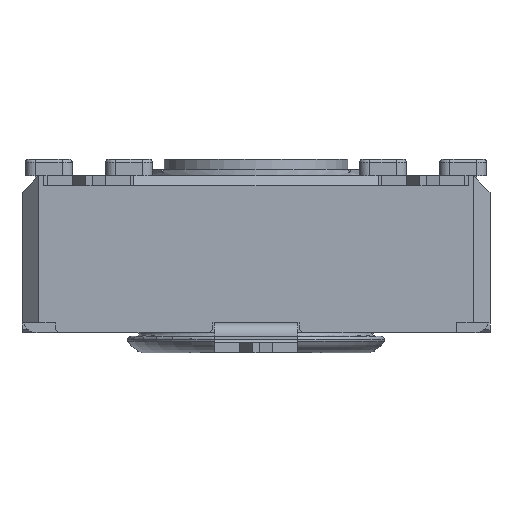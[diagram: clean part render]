
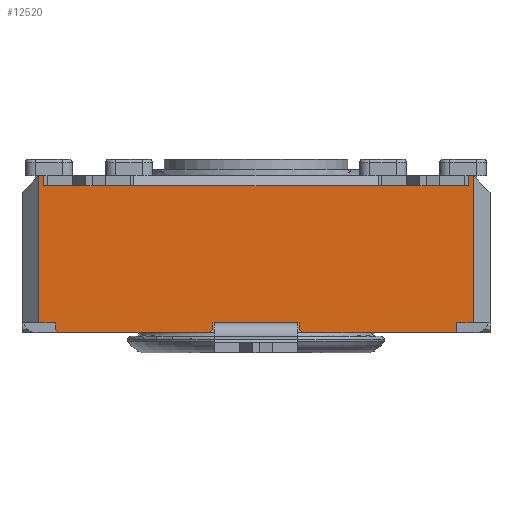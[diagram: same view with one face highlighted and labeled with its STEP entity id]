
A CAD part, front view. The second image highlights one B-rep face of the part: STEP entity #12520.
In plain terms, the highlighted planar face has unit normal (0, -1, 0).
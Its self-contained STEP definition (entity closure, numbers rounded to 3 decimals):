
#652=FACE_OUTER_BOUND('',#1319,.T.);
#1319=EDGE_LOOP('',(#8323,#8324,#8325,#8326,#8327,#8328,#8329,#8330,#8331,
#8332,#8333,#8334,#8335,#8336,#8337,#8338,#8339,#8340,#8341,#8342,#8343,
#8344,#8345,#8346,#8347,#8348,#8349));
#2043=LINE('',#17900,#3524);
#2055=LINE('',#17932,#3536);
#2060=LINE('',#17942,#3541);
#2116=LINE('',#18058,#3597);
#2119=LINE('',#18064,#3600);
#2145=LINE('',#18128,#3626);
#2146=LINE('',#18130,#3627);
#2147=LINE('',#18132,#3628);
#2148=LINE('',#18133,#3629);
#2149=LINE('',#18135,#3630);
#2150=LINE('',#18137,#3631);
#2151=LINE('',#18139,#3632);
#2152=LINE('',#18141,#3633);
#2153=LINE('',#18142,#3634);
#2154=LINE('',#18144,#3635);
#2155=LINE('',#18146,#3636);
#2156=LINE('',#18148,#3637);
#2157=LINE('',#18150,#3638);
#2158=LINE('',#18152,#3639);
#2159=LINE('',#18154,#3640);
#2160=LINE('',#18156,#3641);
#2161=LINE('',#18158,#3642);
#2162=LINE('',#18160,#3643);
#2163=LINE('',#18161,#3644);
#2164=LINE('',#18163,#3645);
#2165=LINE('',#18165,#3646);
#2166=LINE('',#18166,#3647);
#3524=VECTOR('',#14360,10.);
#3536=VECTOR('',#14396,10.);
#3541=VECTOR('',#14401,10.);
#3597=VECTOR('',#14469,10.);
#3600=VECTOR('',#14474,10.);
#3626=VECTOR('',#14522,10.);
#3627=VECTOR('',#14523,10.);
#3628=VECTOR('',#14524,10.);
#3629=VECTOR('',#14525,10.);
#3630=VECTOR('',#14526,10.);
#3631=VECTOR('',#14527,10.);
#3632=VECTOR('',#14528,10.);
#3633=VECTOR('',#14529,10.);
#3634=VECTOR('',#14530,10.);
#3635=VECTOR('',#14531,10.);
#3636=VECTOR('',#14532,10.);
#3637=VECTOR('',#14533,10.);
#3638=VECTOR('',#14534,10.);
#3639=VECTOR('',#14535,10.);
#3640=VECTOR('',#14536,10.);
#3641=VECTOR('',#14537,10.);
#3642=VECTOR('',#14538,10.);
#3643=VECTOR('',#14539,10.);
#3644=VECTOR('',#14540,10.);
#3645=VECTOR('',#14541,10.);
#3646=VECTOR('',#14542,10.);
#3647=VECTOR('',#14543,10.);
#4983=VERTEX_POINT('',#17879);
#4991=VERTEX_POINT('',#17899);
#4999=VERTEX_POINT('',#17931);
#5003=VERTEX_POINT('',#17939);
#5004=VERTEX_POINT('',#17941);
#5057=VERTEX_POINT('',#18055);
#5058=VERTEX_POINT('',#18057);
#5059=VERTEX_POINT('',#18061);
#5060=VERTEX_POINT('',#18063);
#5087=VERTEX_POINT('',#18127);
#5088=VERTEX_POINT('',#18129);
#5089=VERTEX_POINT('',#18131);
#5090=VERTEX_POINT('',#18134);
#5091=VERTEX_POINT('',#18136);
#5092=VERTEX_POINT('',#18138);
#5093=VERTEX_POINT('',#18140);
#5094=VERTEX_POINT('',#18143);
#5095=VERTEX_POINT('',#18145);
#5096=VERTEX_POINT('',#18147);
#5097=VERTEX_POINT('',#18149);
#5098=VERTEX_POINT('',#18151);
#5099=VERTEX_POINT('',#18153);
#5100=VERTEX_POINT('',#18155);
#5101=VERTEX_POINT('',#18157);
#5102=VERTEX_POINT('',#18159);
#5103=VERTEX_POINT('',#18162);
#5104=VERTEX_POINT('',#18164);
#6231=EDGE_CURVE('',#4983,#4991,#2043,.T.);
#6247=EDGE_CURVE('',#4999,#4983,#2055,.T.);
#6252=EDGE_CURVE('',#5004,#5003,#2060,.T.);
#6310=EDGE_CURVE('',#5058,#5057,#2116,.T.);
#6313=EDGE_CURVE('',#5060,#5059,#2119,.T.);
#6345=EDGE_CURVE('',#5057,#5087,#2145,.T.);
#6346=EDGE_CURVE('',#5087,#5088,#2146,.T.);
#6347=EDGE_CURVE('',#5088,#5089,#2147,.T.);
#6348=EDGE_CURVE('',#5004,#5089,#2148,.T.);
#6349=EDGE_CURVE('',#5003,#5090,#2149,.T.);
#6350=EDGE_CURVE('',#5091,#5090,#2150,.T.);
#6351=EDGE_CURVE('',#5091,#5092,#2151,.T.);
#6352=EDGE_CURVE('',#5093,#5092,#2152,.T.);
#6353=EDGE_CURVE('',#4999,#5093,#2153,.T.);
#6354=EDGE_CURVE('',#4991,#5094,#2154,.T.);
#6355=EDGE_CURVE('',#5094,#5095,#2155,.T.);
#6356=EDGE_CURVE('',#5096,#5095,#2156,.T.);
#6357=EDGE_CURVE('',#5096,#5097,#2157,.T.);
#6358=EDGE_CURVE('',#5097,#5098,#2158,.T.);
#6359=EDGE_CURVE('',#5098,#5099,#2159,.T.);
#6360=EDGE_CURVE('',#5100,#5099,#2160,.T.);
#6361=EDGE_CURVE('',#5100,#5101,#2161,.T.);
#6362=EDGE_CURVE('',#5101,#5102,#2162,.T.);
#6363=EDGE_CURVE('',#5102,#5060,#2163,.T.);
#6364=EDGE_CURVE('',#5059,#5103,#2164,.T.);
#6365=EDGE_CURVE('',#5104,#5103,#2165,.T.);
#6366=EDGE_CURVE('',#5104,#5058,#2166,.T.);
#8323=ORIENTED_EDGE('',*,*,#6310,.T.);
#8324=ORIENTED_EDGE('',*,*,#6345,.T.);
#8325=ORIENTED_EDGE('',*,*,#6346,.T.);
#8326=ORIENTED_EDGE('',*,*,#6347,.T.);
#8327=ORIENTED_EDGE('',*,*,#6348,.F.);
#8328=ORIENTED_EDGE('',*,*,#6252,.T.);
#8329=ORIENTED_EDGE('',*,*,#6349,.T.);
#8330=ORIENTED_EDGE('',*,*,#6350,.F.);
#8331=ORIENTED_EDGE('',*,*,#6351,.T.);
#8332=ORIENTED_EDGE('',*,*,#6352,.F.);
#8333=ORIENTED_EDGE('',*,*,#6353,.F.);
#8334=ORIENTED_EDGE('',*,*,#6247,.T.);
#8335=ORIENTED_EDGE('',*,*,#6231,.T.);
#8336=ORIENTED_EDGE('',*,*,#6354,.T.);
#8337=ORIENTED_EDGE('',*,*,#6355,.T.);
#8338=ORIENTED_EDGE('',*,*,#6356,.F.);
#8339=ORIENTED_EDGE('',*,*,#6357,.T.);
#8340=ORIENTED_EDGE('',*,*,#6358,.T.);
#8341=ORIENTED_EDGE('',*,*,#6359,.T.);
#8342=ORIENTED_EDGE('',*,*,#6360,.F.);
#8343=ORIENTED_EDGE('',*,*,#6361,.T.);
#8344=ORIENTED_EDGE('',*,*,#6362,.T.);
#8345=ORIENTED_EDGE('',*,*,#6363,.T.);
#8346=ORIENTED_EDGE('',*,*,#6313,.T.);
#8347=ORIENTED_EDGE('',*,*,#6364,.T.);
#8348=ORIENTED_EDGE('',*,*,#6365,.F.);
#8349=ORIENTED_EDGE('',*,*,#6366,.T.);
#11809=PLANE('',#13233);
#12520=ADVANCED_FACE('',(#652),#11809,.T.);
#13233=AXIS2_PLACEMENT_3D('',#18126,#14520,#14521);
#14360=DIRECTION('',(1.,0.,0.));
#14396=DIRECTION('',(1.,0.,0.));
#14401=DIRECTION('',(1.,0.,0.));
#14469=DIRECTION('',(-1.,0.,0.));
#14474=DIRECTION('',(-1.,0.,0.));
#14520=DIRECTION('center_axis',(0.,-1.,0.));
#14521=DIRECTION('ref_axis',(0.,0.,-1.));
#14522=DIRECTION('',(-1.,0.,0.));
#14523=DIRECTION('',(0.,0.,1.));
#14524=DIRECTION('',(-1.,0.,0.));
#14525=DIRECTION('',(0.,0.,1.));
#14526=DIRECTION('',(0.,0.,-1.));
#14527=DIRECTION('',(-0.707,0.,0.707));
#14528=DIRECTION('',(1.,0.,0.));
#14529=DIRECTION('',(-0.707,0.,-0.707));
#14530=DIRECTION('',(0.,0.,-1.));
#14531=DIRECTION('',(1.,0.,0.));
#14532=DIRECTION('',(0.,0.,-1.));
#14533=DIRECTION('',(-0.707,0.,0.707));
#14534=DIRECTION('',(1.,0.,0.));
#14535=DIRECTION('',(0.,0.,1.));
#14536=DIRECTION('',(1.,0.,0.));
#14537=DIRECTION('',(0.,0.,-1.));
#14538=DIRECTION('',(-1.,0.,0.));
#14539=DIRECTION('',(0.,0.,-1.));
#14540=DIRECTION('',(-1.,0.,0.));
#14541=DIRECTION('',(-1.,0.,0.));
#14542=DIRECTION('',(1.,0.,0.));
#14543=DIRECTION('',(-1.,0.,0.));
#17879=CARTESIAN_POINT('',(-8.717,-9.898,0.));
#17899=CARTESIAN_POINT('',(-6.217,-9.898,0.));
#17900=CARTESIAN_POINT('',(-14.467,-9.898,0.));
#17931=CARTESIAN_POINT('',(-8.767,-9.898,0.));
#17932=CARTESIAN_POINT('',(-14.467,-9.898,0.));
#17939=CARTESIAN_POINT('',(-13.467,-9.898,0.));
#17941=CARTESIAN_POINT('',(-13.967,-9.898,0.));
#17942=CARTESIAN_POINT('',(-7.245,-9.898,0.));
#18055=CARTESIAN_POINT('',(-13.717,-9.898,4.1));
#18057=CARTESIAN_POINT('',(-11.217,-9.898,4.1));
#18058=CARTESIAN_POINT('',(-6.467,-9.898,4.1));
#18061=CARTESIAN_POINT('',(-3.717,-9.898,4.1));
#18063=CARTESIAN_POINT('',(-1.217,-9.898,4.1));
#18064=CARTESIAN_POINT('',(-1.467,-9.898,4.1));
#18126=CARTESIAN_POINT('Origin',(-0.467,-9.898,0.));
#18127=CARTESIAN_POINT('',(-13.817,-9.898,4.1));
#18128=CARTESIAN_POINT('',(-3.944,-9.898,4.1));
#18129=CARTESIAN_POINT('',(-13.817,-9.898,4.4));
#18130=CARTESIAN_POINT('',(-13.817,-9.898,2.2));
#18131=CARTESIAN_POINT('',(-13.967,-9.898,4.4));
#18132=CARTESIAN_POINT('',(-14.467,-9.898,4.4));
#18133=CARTESIAN_POINT('',(-13.967,-9.898,0.));
#18134=CARTESIAN_POINT('',(-13.467,-9.898,-0.2));
#18135=CARTESIAN_POINT('',(-13.467,-9.898,-0.15));
#18136=CARTESIAN_POINT('',(-13.367,-9.898,-0.3));
#18137=CARTESIAN_POINT('',(-10.242,-9.898,-3.425));
#18138=CARTESIAN_POINT('',(-8.867,-9.898,-0.3));
#18139=CARTESIAN_POINT('',(-0.467,-9.898,-0.3));
#18140=CARTESIAN_POINT('',(-8.767,-9.898,-0.2));
#18141=CARTESIAN_POINT('',(-6.667,-9.898,1.9));
#18142=CARTESIAN_POINT('',(-8.767,-9.898,0.));
#18143=CARTESIAN_POINT('',(-6.167,-9.898,0.));
#18144=CARTESIAN_POINT('',(-14.467,-9.898,0.));
#18145=CARTESIAN_POINT('',(-6.167,-9.898,-0.2));
#18146=CARTESIAN_POINT('',(-6.167,-9.898,0.));
#18147=CARTESIAN_POINT('',(-6.067,-9.898,-0.3));
#18148=CARTESIAN_POINT('',(-4.767,-9.898,-1.6));
#18149=CARTESIAN_POINT('',(-1.467,-9.898,-0.3));
#18150=CARTESIAN_POINT('',(-0.467,-9.898,-0.3));
#18151=CARTESIAN_POINT('',(-1.467,-9.898,0.));
#18152=CARTESIAN_POINT('',(-1.467,-9.898,-0.15));
#18153=CARTESIAN_POINT('',(-0.967,-9.898,0.));
#18154=CARTESIAN_POINT('',(-0.646,-9.898,0.));
#18155=CARTESIAN_POINT('',(-0.967,-9.898,4.4));
#18156=CARTESIAN_POINT('',(-0.967,-9.898,0.));
#18157=CARTESIAN_POINT('',(-1.117,-9.898,4.4));
#18158=CARTESIAN_POINT('',(-14.467,-9.898,4.4));
#18159=CARTESIAN_POINT('',(-1.117,-9.898,4.1));
#18160=CARTESIAN_POINT('',(-1.117,-9.898,2.2));
#18161=CARTESIAN_POINT('',(-1.862,-9.898,4.1));
#18162=CARTESIAN_POINT('',(-3.817,-9.898,4.1));
#18163=CARTESIAN_POINT('',(-1.862,-9.898,4.1));
#18164=CARTESIAN_POINT('',(-11.117,-9.898,4.1));
#18165=CARTESIAN_POINT('',(-3.967,-9.898,4.1));
#18166=CARTESIAN_POINT('',(-3.944,-9.898,4.1));
